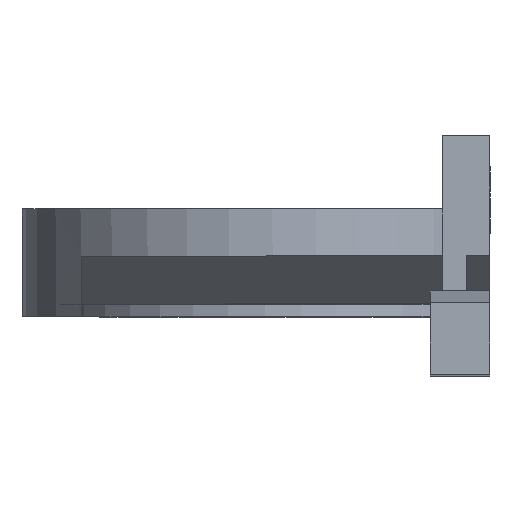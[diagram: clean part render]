
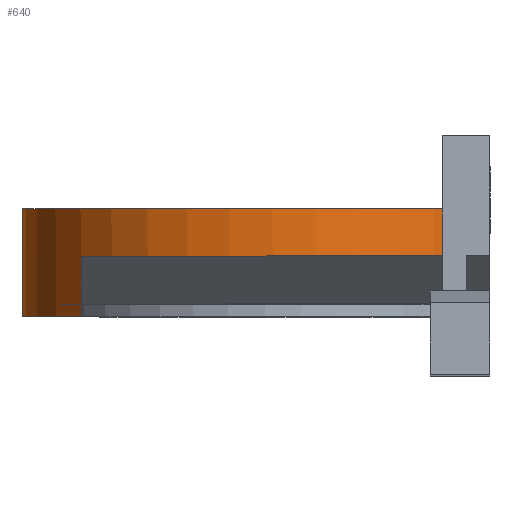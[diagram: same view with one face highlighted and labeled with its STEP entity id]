
A CAD part, top view. The second image highlights one B-rep face of the part: STEP entity #640.
In plain terms, the highlighted cylindrical face has radius 10.5 mm (diameter 21 mm), a partial arc.
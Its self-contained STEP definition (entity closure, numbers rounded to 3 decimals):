
#51=FACE_OUTER_BOUND('',#84,.T.);
#84=EDGE_LOOP('',(#447,#448,#449,#450,#451,#452,#453));
#129=CIRCLE('',#688,10.5);
#130=CIRCLE('',#689,10.5);
#131=CIRCLE('',#690,10.5);
#148=LINE('',#922,#221);
#149=LINE('',#926,#222);
#150=LINE('',#930,#223);
#151=LINE('',#932,#224);
#221=VECTOR('',#743,10.);
#222=VECTOR('',#746,10.);
#223=VECTOR('',#749,10.);
#224=VECTOR('',#750,10.);
#294=VERTEX_POINT('',#920);
#295=VERTEX_POINT('',#921);
#296=VERTEX_POINT('',#923);
#297=VERTEX_POINT('',#925);
#298=VERTEX_POINT('',#927);
#299=VERTEX_POINT('',#929);
#300=VERTEX_POINT('',#931);
#355=EDGE_CURVE('',#294,#295,#148,.T.);
#356=EDGE_CURVE('',#296,#295,#129,.T.);
#357=EDGE_CURVE('',#296,#297,#149,.T.);
#358=EDGE_CURVE('',#298,#297,#130,.T.);
#359=EDGE_CURVE('',#299,#298,#150,.T.);
#360=EDGE_CURVE('',#300,#299,#151,.T.);
#361=EDGE_CURVE('',#294,#300,#131,.T.);
#447=ORIENTED_EDGE('',*,*,#355,.T.);
#448=ORIENTED_EDGE('',*,*,#356,.F.);
#449=ORIENTED_EDGE('',*,*,#357,.T.);
#450=ORIENTED_EDGE('',*,*,#358,.F.);
#451=ORIENTED_EDGE('',*,*,#359,.F.);
#452=ORIENTED_EDGE('',*,*,#360,.F.);
#453=ORIENTED_EDGE('',*,*,#361,.F.);
#631=CYLINDRICAL_SURFACE('',#687,10.5);
#640=ADVANCED_FACE('',(#51),#631,.T.);
#687=AXIS2_PLACEMENT_3D('',#919,#741,#742);
#688=AXIS2_PLACEMENT_3D('',#924,#744,#745);
#689=AXIS2_PLACEMENT_3D('',#928,#747,#748);
#690=AXIS2_PLACEMENT_3D('',#933,#751,#752);
#741=DIRECTION('center_axis',(0.,1.,0.));
#742=DIRECTION('ref_axis',(-1.,0.,0.));
#743=DIRECTION('',(0.,1.,0.));
#744=DIRECTION('center_axis',(0.,1.,0.));
#745=DIRECTION('ref_axis',(1.,0.,0.));
#746=DIRECTION('',(0.,-1.,0.));
#747=DIRECTION('center_axis',(0.,-1.,0.));
#748=DIRECTION('ref_axis',(1.,0.,0.));
#749=DIRECTION('',(0.,-1.,0.));
#750=DIRECTION('',(0.,-1.,0.));
#751=DIRECTION('center_axis',(0.,-1.,0.));
#752=DIRECTION('ref_axis',(1.,0.,0.));
#919=CARTESIAN_POINT('Origin',(-18.1,1.5,0.));
#920=CARTESIAN_POINT('',(-9.05,0.5,5.324));
#921=CARTESIAN_POINT('',(-9.05,2.5,5.324));
#922=CARTESIAN_POINT('',(-9.05,1.5,5.324));
#923=CARTESIAN_POINT('',(-9.05,2.5,-5.324));
#924=CARTESIAN_POINT('Origin',(-18.1,2.5,0.));
#925=CARTESIAN_POINT('',(-9.05,-2.,-5.324));
#926=CARTESIAN_POINT('',(-9.05,1.5,-5.324));
#927=CARTESIAN_POINT('',(-26.133,-2.,6.762));
#928=CARTESIAN_POINT('Origin',(-18.1,-2.,0.));
#929=CARTESIAN_POINT('',(-26.133,-1.5,6.762));
#930=CARTESIAN_POINT('',(-26.133,0.5,6.762));
#931=CARTESIAN_POINT('',(-26.133,0.5,6.762));
#932=CARTESIAN_POINT('',(-26.133,0.5,6.762));
#933=CARTESIAN_POINT('Origin',(-18.1,0.5,0.));
